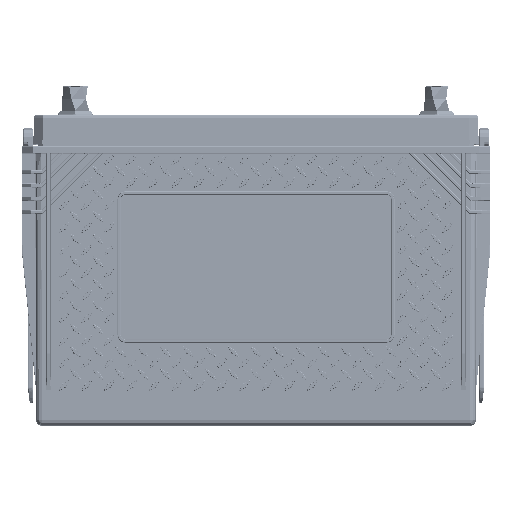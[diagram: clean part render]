
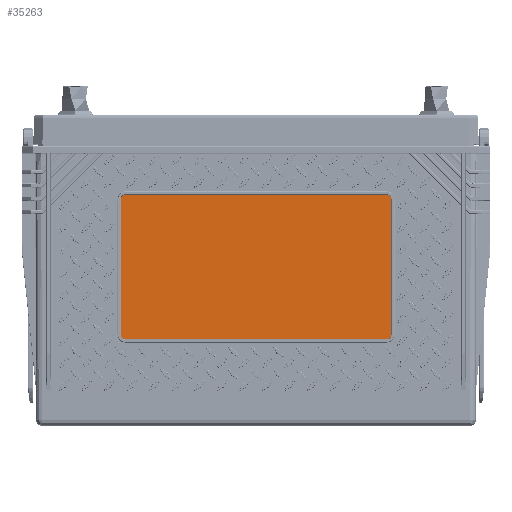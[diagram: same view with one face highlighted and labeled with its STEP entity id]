
A CAD part, top view. The second image highlights one B-rep face of the part: STEP entity #35263.
In plain terms, the highlighted planar face has unit normal (0, -0.001, 1).
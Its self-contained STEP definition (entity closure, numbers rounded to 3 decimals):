
#14077 = DIRECTION ( 'NONE',  ( 0., 1., 0.001 ) ) ;
#23670 = DIRECTION ( 'NONE',  ( 0., -1., -0.001 ) ) ;
#25251 = ORIENTED_EDGE ( 'NONE', *, *, #595150, .T. ) ;
#32931 = ORIENTED_EDGE ( 'NONE', *, *, #800278, .T. ) ;
#35263 = ADVANCED_FACE ( 'NONE', ( #352899 ), #475872, .T. ) ;
#36507 = EDGE_LOOP ( 'NONE', ( #731346, #276929, #680275, #25251, #793718, #32931, #49892, #398411 ) ) ;
#49892 = ORIENTED_EDGE ( 'NONE', *, *, #80608, .T. ) ;
#62814 = CARTESIAN_POINT ( 'NONE',  ( 3.625, 2.512, 3.253 ) ) ;
#66320 = DIRECTION ( 'NONE',  ( 0., -0.001, 1. ) ) ;
#80608 = EDGE_CURVE ( 'NONE', #640205, #345588, #206451, .T. ) ;
#85540 = CIRCLE ( 'NONE', #765484, 0.115 ) ;
#104394 = DIRECTION ( 'NONE',  ( 0., -1., -0.001 ) ) ;
#119386 = CIRCLE ( 'NONE', #302499, 0.115 ) ;
#133528 = CARTESIAN_POINT ( 'NONE',  ( -3.625, 6.397, 3.257 ) ) ;
#169879 = CARTESIAN_POINT ( 'NONE',  ( 3.625, 6.282, 3.257 ) ) ;
#189201 = DIRECTION ( 'NONE',  ( 0., -1., -0.001 ) ) ;
#200575 = CARTESIAN_POINT ( 'NONE',  ( -6.096, 2.396, 3.253 ) ) ;
#206451 = LINE ( 'NONE', #505789, #424666 ) ;
#211454 = VERTEX_POINT ( 'NONE', #502759 ) ;
#215043 = EDGE_CURVE ( 'NONE', #721755, #562190, #431709, .T. ) ;
#222488 = VECTOR ( 'NONE', #250335, 39.37 ) ;
#250108 = VECTOR ( 'NONE', #377559, 39.37 ) ;
#250335 = DIRECTION ( 'NONE',  ( 0., -1., -0.001 ) ) ;
#276929 = ORIENTED_EDGE ( 'NONE', *, *, #215043, .T. ) ;
#291483 = DIRECTION ( 'NONE',  ( 0., -1., -0.001 ) ) ;
#302499 = AXIS2_PLACEMENT_3D ( 'NONE', #316170, #66320, #189201 ) ;
#311580 = EDGE_CURVE ( 'NONE', #345588, #471973, #601123, .T. ) ;
#316170 = CARTESIAN_POINT ( 'NONE',  ( -3.625, 2.512, 3.253 ) ) ;
#345588 = VERTEX_POINT ( 'NONE', #502584 ) ;
#352899 = FACE_OUTER_BOUND ( 'NONE', #36507, .T. ) ;
#366771 = CARTESIAN_POINT ( 'NONE',  ( -3.74, 6.282, 3.257 ) ) ;
#369249 = LINE ( 'NONE', #385392, #222488 ) ;
#377559 = DIRECTION ( 'NONE',  ( -1., 0., 0. ) ) ;
#385392 = CARTESIAN_POINT ( 'NONE',  ( -3.74, 0., 3.25 ) ) ;
#394074 = EDGE_CURVE ( 'NONE', #461893, #436978, #634674, .T. ) ;
#398411 = ORIENTED_EDGE ( 'NONE', *, *, #311580, .T. ) ;
#418400 = CARTESIAN_POINT ( 'NONE',  ( -6.096, 0., 3.25 ) ) ;
#424666 = VECTOR ( 'NONE', #14077, 39.37 ) ;
#428217 = AXIS2_PLACEMENT_3D ( 'NONE', #418400, #783015, #291483 ) ;
#431709 = CIRCLE ( 'NONE', #798207, 0.115 ) ;
#435577 = DIRECTION ( 'NONE',  ( 0., -1., -0.001 ) ) ;
#436978 = VERTEX_POINT ( 'NONE', #798187 ) ;
#450480 = DIRECTION ( 'NONE',  ( 1., 0., 0. ) ) ;
#461893 = VERTEX_POINT ( 'NONE', #661324 ) ;
#471973 = VERTEX_POINT ( 'NONE', #635397 ) ;
#475872 = PLANE ( 'NONE',  #428217 ) ;
#500518 = LINE ( 'NONE', #549814, #250108 ) ;
#502584 = CARTESIAN_POINT ( 'NONE',  ( 3.74, 6.282, 3.257 ) ) ;
#502759 = CARTESIAN_POINT ( 'NONE',  ( -3.74, 2.512, 3.253 ) ) ;
#505789 = CARTESIAN_POINT ( 'NONE',  ( 3.74, 0., 3.25 ) ) ;
#522848 = AXIS2_PLACEMENT_3D ( 'NONE', #169879, #730959, #104394 ) ;
#523474 = EDGE_CURVE ( 'NONE', #471973, #721755, #500518, .T. ) ;
#547310 = VECTOR ( 'NONE', #450480, 39.37 ) ;
#549814 = CARTESIAN_POINT ( 'NONE',  ( -6.096, 6.397, 3.257 ) ) ;
#558414 = DIRECTION ( 'NONE',  ( 0., -0.001, 1. ) ) ;
#562100 = CARTESIAN_POINT ( 'NONE',  ( 3.74, 2.512, 3.253 ) ) ;
#562190 = VERTEX_POINT ( 'NONE', #366771 ) ;
#595150 = EDGE_CURVE ( 'NONE', #211454, #461893, #119386, .T. ) ;
#596910 = DIRECTION ( 'NONE',  ( 0., -0.001, 1. ) ) ;
#601123 = CIRCLE ( 'NONE', #522848, 0.115 ) ;
#634674 = LINE ( 'NONE', #200575, #547310 ) ;
#635397 = CARTESIAN_POINT ( 'NONE',  ( 3.625, 6.397, 3.257 ) ) ;
#640205 = VERTEX_POINT ( 'NONE', #562100 ) ;
#647308 = EDGE_CURVE ( 'NONE', #562190, #211454, #369249, .T. ) ;
#654186 = CARTESIAN_POINT ( 'NONE',  ( -3.625, 6.282, 3.257 ) ) ;
#661324 = CARTESIAN_POINT ( 'NONE',  ( -3.625, 2.396, 3.253 ) ) ;
#680275 = ORIENTED_EDGE ( 'NONE', *, *, #647308, .T. ) ;
#721755 = VERTEX_POINT ( 'NONE', #133528 ) ;
#730959 = DIRECTION ( 'NONE',  ( 0., -0.001, 1. ) ) ;
#731346 = ORIENTED_EDGE ( 'NONE', *, *, #523474, .T. ) ;
#765484 = AXIS2_PLACEMENT_3D ( 'NONE', #62814, #558414, #435577 ) ;
#783015 = DIRECTION ( 'NONE',  ( 0., -0.001, 1. ) ) ;
#793718 = ORIENTED_EDGE ( 'NONE', *, *, #394074, .T. ) ;
#798187 = CARTESIAN_POINT ( 'NONE',  ( 3.625, 2.396, 3.253 ) ) ;
#798207 = AXIS2_PLACEMENT_3D ( 'NONE', #654186, #596910, #23670 ) ;
#800278 = EDGE_CURVE ( 'NONE', #436978, #640205, #85540, .T. ) ;
